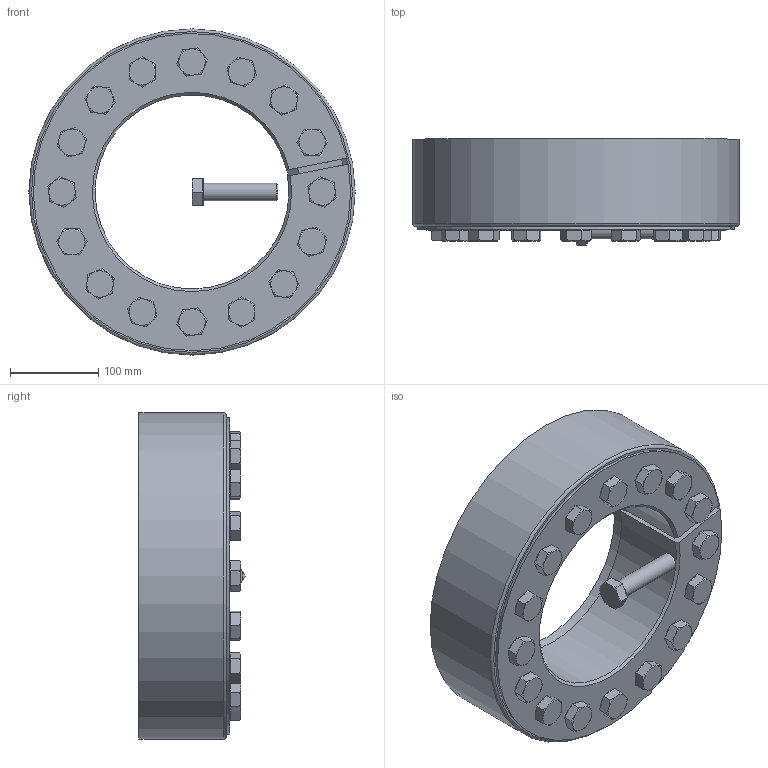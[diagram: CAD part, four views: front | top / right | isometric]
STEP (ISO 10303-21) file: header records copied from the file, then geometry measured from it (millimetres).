
FILE_DESCRIPTION( ( 'Unknown' ), '1' );
FILE_NAME( 'C:/Dokumente und Einstellungen/Sven/Desktop/homepage/cad - homepage/KBS19-1/KBS 19_1 - 220 x 370.stp', 'Unknown', ( 'Unknown' ), ( 'Unknown' ), 'XStep 1.0', 'Unknown', ' ' );
FILE_SCHEMA( ( 'automotive_design' ) );
Length unit declared in the file: millimetre
Products named in the file (3): Assem1; KBS 19_1 - 220 x 370; ISO 4017 - M20 x 85-N
Bounding box: 370 x 120.32 x 370 mm (x, y, z)
Volume: 13776183 mm3; surface area: 994196 mm2
Topology: 19 solids, 19 shells, 487 faces, 1069 edges, 637 vertices
Faces by surface type: plane 273, cone 125, cylinder 70, torus 19
Full cylindrical faces by diameter (mm): 20 x49, 30 x17, 370 x2
Entity records: 2042 total; most frequent: CARTESIAN_POINT 353, DIRECTION 304, ORIENTED_EDGE 230, AXIS2_PLACEMENT_3D 133, EDGE_CURVE 115, EDGE_LOOP 113, VERTEX_POINT 86, FACE_OUTER_BOUND 77
